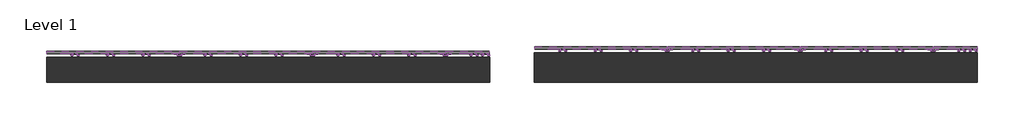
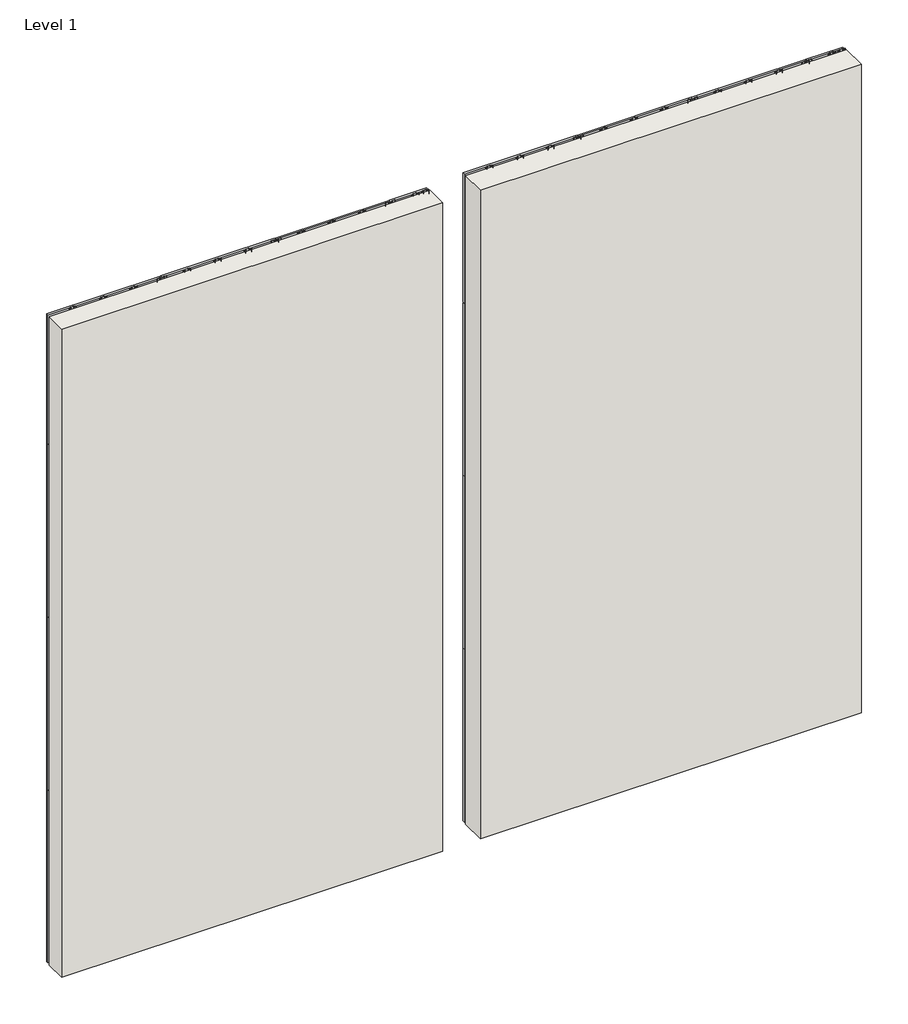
# One storey, incomplete: 32 plates, 24 members, 2 walls.
"""IFC4 building model written with IfcOpenShell, lengths in millimetres."""

from ifc_helpers import new_model, si_unit, origin, origin_with_axes, place, context, project, spatial, polyline, outline, extrude, transform, mapped, element, save
from components import rectangular_mullion_kws_revealrail_mullion_635518cf, rectangular_mullion_kws_revealrail_mullion_a2485246, plate_84a66804, plate_de720d52, plate_85d27ee4, plate_facd7c0a

model = new_model("IFC4")

# Units and contexts
model_context = context("Model", 3, world=origin())
ifc_project = project(units=[si_unit("LENGTHUNIT", "METRE", prefix="MILLI")], contexts=[model_context])

# Site, building, storey
site = spatial("IfcSite", under=ifc_project)
building = spatial("IfcBuilding", under=site)
storey = spatial("IfcBuildingStorey", under=building, Name="Level 1", Elevation=0.0)

# Members
placement = place(None, origin())
rectangular_mullion_kws_revealrail_mullion_shape = rectangular_mullion_kws_revealrail_mullion_635518cf(model_context)
element("IfcMember", 1, ObjectType="Rectangular Mullion : KWS_RevealRail_Mullion", at=placement, inside=storey, context=model_context, shape_type="MappedRepresentation", body=[
    mapped(rectangular_mullion_kws_revealrail_mullion_shape, transform((2855.9764743, 7354.7086092, 0.0), x_axis=(1.0, 0.0, 0.0), y_axis=(0.0, -1.0, 0.0), z_axis=(0.0, 0.0, -1.0))),
])
element("IfcMember", 2, ObjectType="Rectangular Mullion : KWS_RevealRail_Mullion", at=placement, inside=storey, context=model_context, shape_type="MappedRepresentation", body=[
    mapped(rectangular_mullion_kws_revealrail_mullion_shape, transform((4379.9764743, 7354.7086092, 0.0), x_axis=(1.0, 0.0, 0.0), y_axis=(0.0, -1.0, 0.0), z_axis=(0.0, 0.0, -1.0))),
])
element("IfcMember", 3, ObjectType="Rectangular Mullion : KWS_RevealRail_Mullion", at=placement, inside=storey, context=model_context, shape_type="MappedRepresentation", body=[
    mapped(rectangular_mullion_kws_revealrail_mullion_shape, transform((5903.9764743, 7354.7086092, 0.0), x_axis=(1.0, 0.0, 0.0), y_axis=(0.0, -1.0, 0.0), z_axis=(0.0, 0.0, -1.0))),
])
element("IfcMember", 4, ObjectType="Rectangular Mullion : KWS_RevealRail_Mullion", at=placement, inside=storey, context=model_context, shape_type="MappedRepresentation", body=[
    mapped(rectangular_mullion_kws_revealrail_mullion_shape, transform((8443.9764743, 7405.5086092, 0.0), x_axis=(1.0, 0.0, 0.0), y_axis=(0.0, -1.0, 0.0), z_axis=(0.0, 0.0, -1.0))),
])
element("IfcMember", 5, ObjectType="Rectangular Mullion : KWS_RevealRail_Mullion", at=placement, inside=storey, context=model_context, shape_type="MappedRepresentation", body=[
    mapped(rectangular_mullion_kws_revealrail_mullion_shape, transform((9967.9764743, 7405.5086092, 0.0), x_axis=(1.0, 0.0, 0.0), y_axis=(0.0, -1.0, 0.0), z_axis=(0.0, 0.0, -1.0))),
])
element("IfcMember", 6, ObjectType="Rectangular Mullion : KWS_RevealRail_Mullion", at=placement, inside=storey, context=model_context, shape_type="MappedRepresentation", body=[
    mapped(rectangular_mullion_kws_revealrail_mullion_shape, transform((11491.9764743, 7405.5086092, 0.0), x_axis=(1.0, 0.0, 0.0), y_axis=(0.0, -1.0, 0.0), z_axis=(0.0, 0.0, -1.0))),
])
element("IfcMember", 7, ObjectType="Rectangular Mullion : KWS_RevealRail_Mullion", at=placement, inside=storey, context=model_context, shape_type="MappedRepresentation", body=[
    mapped(rectangular_mullion_kws_revealrail_mullion_shape, transform((2855.9764743, 7354.7086092, 2438.4), x_axis=(1.0, 0.0, 0.0), y_axis=(0.0, -1.0, 0.0), z_axis=(0.0, 0.0, -1.0))),
])
element("IfcMember", 8, ObjectType="Rectangular Mullion : KWS_RevealRail_Mullion", at=placement, inside=storey, context=model_context, shape_type="MappedRepresentation", body=[
    mapped(rectangular_mullion_kws_revealrail_mullion_shape, transform((4379.9764743, 7354.7086092, 2438.4), x_axis=(1.0, 0.0, 0.0), y_axis=(0.0, -1.0, 0.0), z_axis=(0.0, 0.0, -1.0))),
])
element("IfcMember", 9, ObjectType="Rectangular Mullion : KWS_RevealRail_Mullion", at=placement, inside=storey, context=model_context, shape_type="MappedRepresentation", body=[
    mapped(rectangular_mullion_kws_revealrail_mullion_shape, transform((5903.9764743, 7354.7086092, 2438.4), x_axis=(1.0, 0.0, 0.0), y_axis=(0.0, -1.0, 0.0), z_axis=(0.0, 0.0, -1.0))),
])
element("IfcMember", 10, ObjectType="Rectangular Mullion : KWS_RevealRail_Mullion", at=placement, inside=storey, context=model_context, shape_type="MappedRepresentation", body=[
    mapped(rectangular_mullion_kws_revealrail_mullion_shape, transform((2855.9764743, 7354.7086092, 4876.8), x_axis=(1.0, 0.0, 0.0), y_axis=(0.0, -1.0, 0.0), z_axis=(0.0, 0.0, -1.0))),
])
element("IfcMember", 11, ObjectType="Rectangular Mullion : KWS_RevealRail_Mullion", at=placement, inside=storey, context=model_context, shape_type="MappedRepresentation", body=[
    mapped(rectangular_mullion_kws_revealrail_mullion_shape, transform((4379.9764743, 7354.7086092, 4876.8), x_axis=(1.0, 0.0, 0.0), y_axis=(0.0, -1.0, 0.0), z_axis=(0.0, 0.0, -1.0))),
])
element("IfcMember", 12, ObjectType="Rectangular Mullion : KWS_RevealRail_Mullion", at=placement, inside=storey, context=model_context, shape_type="MappedRepresentation", body=[
    mapped(rectangular_mullion_kws_revealrail_mullion_shape, transform((5903.9764743, 7354.7086092, 4876.8), x_axis=(1.0, 0.0, 0.0), y_axis=(0.0, -1.0, 0.0), z_axis=(0.0, 0.0, -1.0))),
])
element("IfcMember", 13, ObjectType="Rectangular Mullion : KWS_RevealRail_Mullion", at=placement, inside=storey, context=model_context, shape_type="MappedRepresentation", body=[
    mapped(rectangular_mullion_kws_revealrail_mullion_shape, transform((8443.9764743, 7405.5086092, 2438.4), x_axis=(1.0, 0.0, 0.0), y_axis=(0.0, -1.0, 0.0), z_axis=(0.0, 0.0, -1.0))),
])
element("IfcMember", 14, ObjectType="Rectangular Mullion : KWS_RevealRail_Mullion", at=placement, inside=storey, context=model_context, shape_type="MappedRepresentation", body=[
    mapped(rectangular_mullion_kws_revealrail_mullion_shape, transform((9967.9764743, 7405.5086092, 2438.4), x_axis=(1.0, 0.0, 0.0), y_axis=(0.0, -1.0, 0.0), z_axis=(0.0, 0.0, -1.0))),
])
element("IfcMember", 15, ObjectType="Rectangular Mullion : KWS_RevealRail_Mullion", at=placement, inside=storey, context=model_context, shape_type="MappedRepresentation", body=[
    mapped(rectangular_mullion_kws_revealrail_mullion_shape, transform((11491.9764743, 7405.5086092, 2438.4), x_axis=(1.0, 0.0, 0.0), y_axis=(0.0, -1.0, 0.0), z_axis=(0.0, 0.0, -1.0))),
])
element("IfcMember", 16, ObjectType="Rectangular Mullion : KWS_RevealRail_Mullion", at=placement, inside=storey, context=model_context, shape_type="MappedRepresentation", body=[
    mapped(rectangular_mullion_kws_revealrail_mullion_shape, transform((8443.9764743, 7405.5086092, 4876.8), x_axis=(1.0, 0.0, 0.0), y_axis=(0.0, -1.0, 0.0), z_axis=(0.0, 0.0, -1.0))),
])
element("IfcMember", 17, ObjectType="Rectangular Mullion : KWS_RevealRail_Mullion", at=placement, inside=storey, context=model_context, shape_type="MappedRepresentation", body=[
    mapped(rectangular_mullion_kws_revealrail_mullion_shape, transform((9967.9764743, 7405.5086092, 4876.8), x_axis=(1.0, 0.0, 0.0), y_axis=(0.0, -1.0, 0.0), z_axis=(0.0, 0.0, -1.0))),
])
element("IfcMember", 18, ObjectType="Rectangular Mullion : KWS_RevealRail_Mullion", at=placement, inside=storey, context=model_context, shape_type="MappedRepresentation", body=[
    mapped(rectangular_mullion_kws_revealrail_mullion_shape, transform((11491.9764743, 7405.5086092, 4876.8), x_axis=(1.0, 0.0, 0.0), y_axis=(0.0, -1.0, 0.0), z_axis=(0.0, 0.0, -1.0))),
])
rectangular_mullion_kws_revealrail_mullion_2_shape = rectangular_mullion_kws_revealrail_mullion_a2485246(model_context)
element("IfcMember", 19, ObjectType="Rectangular Mullion : KWS_RevealRail_Mullion", at=placement, inside=storey, context=model_context, shape_type="MappedRepresentation", body=[
    mapped(rectangular_mullion_kws_revealrail_mullion_2_shape, transform((2855.9764743, 7354.7086092, 7315.2), x_axis=(1.0, 0.0, 0.0), y_axis=(0.0, -1.0, 0.0), z_axis=(0.0, 0.0, -1.0))),
])
element("IfcMember", 20, ObjectType="Rectangular Mullion : KWS_RevealRail_Mullion", at=placement, inside=storey, context=model_context, shape_type="MappedRepresentation", body=[
    mapped(rectangular_mullion_kws_revealrail_mullion_2_shape, transform((4379.9764743, 7354.7086092, 7315.2), x_axis=(1.0, 0.0, 0.0), y_axis=(0.0, -1.0, 0.0), z_axis=(0.0, 0.0, -1.0))),
])
element("IfcMember", 21, ObjectType="Rectangular Mullion : KWS_RevealRail_Mullion", at=placement, inside=storey, context=model_context, shape_type="MappedRepresentation", body=[
    mapped(rectangular_mullion_kws_revealrail_mullion_2_shape, transform((5903.9764743, 7354.7086092, 7315.2), x_axis=(1.0, 0.0, 0.0), y_axis=(0.0, -1.0, 0.0), z_axis=(0.0, 0.0, -1.0))),
])
element("IfcMember", 22, ObjectType="Rectangular Mullion : KWS_RevealRail_Mullion", at=placement, inside=storey, context=model_context, shape_type="MappedRepresentation", body=[
    mapped(rectangular_mullion_kws_revealrail_mullion_2_shape, transform((8443.9764743, 7405.5086092, 7315.2), x_axis=(1.0, 0.0, 0.0), y_axis=(0.0, -1.0, 0.0), z_axis=(0.0, 0.0, -1.0))),
])
element("IfcMember", 23, ObjectType="Rectangular Mullion : KWS_RevealRail_Mullion", at=placement, inside=storey, context=model_context, shape_type="MappedRepresentation", body=[
    mapped(rectangular_mullion_kws_revealrail_mullion_2_shape, transform((9967.9764743, 7405.5086092, 7315.2), x_axis=(1.0, 0.0, 0.0), y_axis=(0.0, -1.0, 0.0), z_axis=(0.0, 0.0, -1.0))),
])
element("IfcMember", 24, ObjectType="Rectangular Mullion : KWS_RevealRail_Mullion", at=placement, inside=storey, context=model_context, shape_type="MappedRepresentation", body=[
    mapped(rectangular_mullion_kws_revealrail_mullion_2_shape, transform((11491.9764743, 7405.5086092, 7315.2), x_axis=(1.0, 0.0, 0.0), y_axis=(0.0, -1.0, 0.0), z_axis=(0.0, 0.0, -1.0))),
])

# Plates
plate_shape = plate_84a66804(model_context)
element("IfcPlate", 25, ObjectType="KWS_Generic-Panel_w_PanelRail-V : 2\" x 3/4\"", at=placement, inside=storey, context=model_context, shape_type="MappedRepresentation", body=[
    mapped(plate_shape, transform((2093.9764741, 7354.7086092, 0.0), x_axis=(1.0, 0.0, 0.0), y_axis=(0.0, 1.0, 0.0), z_axis=(0.0, 0.0, 1.0))),
])
element("IfcPlate", 26, ObjectType="KWS_Generic-Panel_w_PanelRail-V : 2\" x 3/4\"", at=placement, inside=storey, context=model_context, shape_type="MappedRepresentation", body=[
    mapped(plate_shape, transform((3617.9764743, 7354.7086092, 0.0), x_axis=(1.0, 0.0, 0.0), y_axis=(0.0, 1.0, 0.0), z_axis=(0.0, 0.0, 1.0))),
])
element("IfcPlate", 27, ObjectType="KWS_Generic-Panel_w_PanelRail-V : 2\" x 3/4\"", at=placement, inside=storey, context=model_context, shape_type="MappedRepresentation", body=[
    mapped(plate_shape, transform((5141.9764743, 7354.7086092, 0.0), x_axis=(1.0, 0.0, 0.0), y_axis=(0.0, 1.0, 0.0), z_axis=(0.0, 0.0, 1.0))),
])
element("IfcPlate", 28, ObjectType="KWS_Generic-Panel_w_PanelRail-V : 2\" x 3/4\"", at=placement, inside=storey, context=model_context, shape_type="MappedRepresentation", body=[
    mapped(plate_shape, transform((2093.9764741, 7354.7086092, 2438.4), x_axis=(1.0, 0.0, 0.0), y_axis=(0.0, 1.0, 0.0), z_axis=(0.0, 0.0, 1.0))),
])
element("IfcPlate", 29, ObjectType="KWS_Generic-Panel_w_PanelRail-V : 2\" x 3/4\"", at=placement, inside=storey, context=model_context, shape_type="MappedRepresentation", body=[
    mapped(plate_shape, transform((3617.9764743, 7354.7086092, 2438.4), x_axis=(1.0, 0.0, 0.0), y_axis=(0.0, 1.0, 0.0), z_axis=(0.0, 0.0, 1.0))),
])
element("IfcPlate", 30, ObjectType="KWS_Generic-Panel_w_PanelRail-V : 2\" x 3/4\"", at=placement, inside=storey, context=model_context, shape_type="MappedRepresentation", body=[
    mapped(plate_shape, transform((5141.9764743, 7354.7086092, 2438.4), x_axis=(1.0, 0.0, 0.0), y_axis=(0.0, 1.0, 0.0), z_axis=(0.0, 0.0, 1.0))),
])
element("IfcPlate", 31, ObjectType="KWS_Generic-Panel_w_PanelRail-V : 2\" x 3/4\"", at=placement, inside=storey, context=model_context, shape_type="MappedRepresentation", body=[
    mapped(plate_shape, transform((2093.9764741, 7354.7086092, 4876.8), x_axis=(1.0, 0.0, 0.0), y_axis=(0.0, 1.0, 0.0), z_axis=(0.0, 0.0, 1.0))),
])
element("IfcPlate", 32, ObjectType="KWS_Generic-Panel_w_PanelRail-V : 2\" x 3/4\"", at=placement, inside=storey, context=model_context, shape_type="MappedRepresentation", body=[
    mapped(plate_shape, transform((3617.9764743, 7354.7086092, 4876.8), x_axis=(1.0, 0.0, 0.0), y_axis=(0.0, 1.0, 0.0), z_axis=(0.0, 0.0, 1.0))),
])
element("IfcPlate", 33, ObjectType="KWS_Generic-Panel_w_PanelRail-V : 2\" x 3/4\"", at=placement, inside=storey, context=model_context, shape_type="MappedRepresentation", body=[
    mapped(plate_shape, transform((5141.9764743, 7354.7086092, 4876.8), x_axis=(1.0, 0.0, 0.0), y_axis=(0.0, 1.0, 0.0), z_axis=(0.0, 0.0, 1.0))),
])
element("IfcPlate", 34, ObjectType="KWS_Generic-Panel_w_PanelRail-V : 2\" x 3/4\"", at=placement, inside=storey, context=model_context, shape_type="MappedRepresentation", body=[
    mapped(plate_shape, transform((7681.9764741, 7405.5086092, 0.0), x_axis=(1.0, 0.0, 0.0), y_axis=(0.0, 1.0, 0.0), z_axis=(0.0, 0.0, 1.0))),
])
element("IfcPlate", 35, ObjectType="KWS_Generic-Panel_w_PanelRail-V : 2\" x 3/4\"", at=placement, inside=storey, context=model_context, shape_type="MappedRepresentation", body=[
    mapped(plate_shape, transform((9205.9764743, 7405.5086092, 0.0), x_axis=(1.0, 0.0, 0.0), y_axis=(0.0, 1.0, 0.0), z_axis=(0.0, 0.0, 1.0))),
])
element("IfcPlate", 36, ObjectType="KWS_Generic-Panel_w_PanelRail-V : 2\" x 3/4\"", at=placement, inside=storey, context=model_context, shape_type="MappedRepresentation", body=[
    mapped(plate_shape, transform((10729.9764743, 7405.5086092, 0.0), x_axis=(1.0, 0.0, 0.0), y_axis=(0.0, 1.0, 0.0), z_axis=(0.0, 0.0, 1.0))),
])
element("IfcPlate", 37, ObjectType="KWS_Generic-Panel_w_PanelRail-V : 2\" x 3/4\"", at=placement, inside=storey, context=model_context, shape_type="MappedRepresentation", body=[
    mapped(plate_shape, transform((7681.9764741, 7405.5086092, 2438.4), x_axis=(1.0, 0.0, 0.0), y_axis=(0.0, 1.0, 0.0), z_axis=(0.0, 0.0, 1.0))),
])
element("IfcPlate", 38, ObjectType="KWS_Generic-Panel_w_PanelRail-V : 2\" x 3/4\"", at=placement, inside=storey, context=model_context, shape_type="MappedRepresentation", body=[
    mapped(plate_shape, transform((9205.9764743, 7405.5086092, 2438.4), x_axis=(1.0, 0.0, 0.0), y_axis=(0.0, 1.0, 0.0), z_axis=(0.0, 0.0, 1.0))),
])
element("IfcPlate", 39, ObjectType="KWS_Generic-Panel_w_PanelRail-V : 2\" x 3/4\"", at=placement, inside=storey, context=model_context, shape_type="MappedRepresentation", body=[
    mapped(plate_shape, transform((10729.9764743, 7405.5086092, 2438.4), x_axis=(1.0, 0.0, 0.0), y_axis=(0.0, 1.0, 0.0), z_axis=(0.0, 0.0, 1.0))),
])
element("IfcPlate", 40, ObjectType="KWS_Generic-Panel_w_PanelRail-V : 2\" x 3/4\"", at=placement, inside=storey, context=model_context, shape_type="MappedRepresentation", body=[
    mapped(plate_shape, transform((7681.9764741, 7405.5086092, 4876.8), x_axis=(1.0, 0.0, 0.0), y_axis=(0.0, 1.0, 0.0), z_axis=(0.0, 0.0, 1.0))),
])
element("IfcPlate", 41, ObjectType="KWS_Generic-Panel_w_PanelRail-V : 2\" x 3/4\"", at=placement, inside=storey, context=model_context, shape_type="MappedRepresentation", body=[
    mapped(plate_shape, transform((9205.9764743, 7405.5086092, 4876.8), x_axis=(1.0, 0.0, 0.0), y_axis=(0.0, 1.0, 0.0), z_axis=(0.0, 0.0, 1.0))),
])
element("IfcPlate", 42, ObjectType="KWS_Generic-Panel_w_PanelRail-V : 2\" x 3/4\"", at=placement, inside=storey, context=model_context, shape_type="MappedRepresentation", body=[
    mapped(plate_shape, transform((10729.9764743, 7405.5086092, 4876.8), x_axis=(1.0, 0.0, 0.0), y_axis=(0.0, 1.0, 0.0), z_axis=(0.0, 0.0, 1.0))),
])
plate_2_shape = plate_de720d52(model_context)
element("IfcPlate", 43, ObjectType="KWS_Generic-Panel_w_PanelRail-V : 2\" x 3/4\"", at=placement, inside=storey, context=model_context, shape_type="MappedRepresentation", body=[
    mapped(plate_2_shape, transform((6157.9764741, 7354.7086092, 0.0), x_axis=(1.0, 0.0, 0.0), y_axis=(0.0, 1.0, 0.0), z_axis=(0.0, 0.0, 1.0))),
])
element("IfcPlate", 44, ObjectType="KWS_Generic-Panel_w_PanelRail-V : 2\" x 3/4\"", at=placement, inside=storey, context=model_context, shape_type="MappedRepresentation", body=[
    mapped(plate_2_shape, transform((6157.9764741, 7354.7086092, 2438.4), x_axis=(1.0, 0.0, 0.0), y_axis=(0.0, 1.0, 0.0), z_axis=(0.0, 0.0, 1.0))),
])
element("IfcPlate", 45, ObjectType="KWS_Generic-Panel_w_PanelRail-V : 2\" x 3/4\"", at=placement, inside=storey, context=model_context, shape_type="MappedRepresentation", body=[
    mapped(plate_2_shape, transform((6157.9764741, 7354.7086092, 4876.8), x_axis=(1.0, 0.0, 0.0), y_axis=(0.0, 1.0, 0.0), z_axis=(0.0, 0.0, 1.0))),
])
element("IfcPlate", 46, ObjectType="KWS_Generic-Panel_w_PanelRail-V : 2\" x 3/4\"", at=placement, inside=storey, context=model_context, shape_type="MappedRepresentation", body=[
    mapped(plate_2_shape, transform((11745.9764741, 7405.5086092, 0.0), x_axis=(1.0, 0.0, 0.0), y_axis=(0.0, 1.0, 0.0), z_axis=(0.0, 0.0, 1.0))),
])
element("IfcPlate", 47, ObjectType="KWS_Generic-Panel_w_PanelRail-V : 2\" x 3/4\"", at=placement, inside=storey, context=model_context, shape_type="MappedRepresentation", body=[
    mapped(plate_2_shape, transform((11745.9764741, 7405.5086092, 2438.4), x_axis=(1.0, 0.0, 0.0), y_axis=(0.0, 1.0, 0.0), z_axis=(0.0, 0.0, 1.0))),
])
element("IfcPlate", 48, ObjectType="KWS_Generic-Panel_w_PanelRail-V : 2\" x 3/4\"", at=placement, inside=storey, context=model_context, shape_type="MappedRepresentation", body=[
    mapped(plate_2_shape, transform((11745.9764741, 7405.5086092, 4876.8), x_axis=(1.0, 0.0, 0.0), y_axis=(0.0, 1.0, 0.0), z_axis=(0.0, 0.0, 1.0))),
])
plate_3_shape = plate_85d27ee4(model_context)
element("IfcPlate", 49, ObjectType="KWS_Generic-Panel_w_PanelRail-V : 2\" x 3/4\"", at=placement, inside=storey, context=model_context, shape_type="MappedRepresentation", body=[
    mapped(plate_3_shape, transform((2093.9764741, 7354.7086092, 7315.2), x_axis=(1.0, 0.0, 0.0), y_axis=(0.0, 1.0, 0.0), z_axis=(0.0, 0.0, 1.0))),
])
element("IfcPlate", 50, ObjectType="KWS_Generic-Panel_w_PanelRail-V : 2\" x 3/4\"", at=placement, inside=storey, context=model_context, shape_type="MappedRepresentation", body=[
    mapped(plate_3_shape, transform((3617.9764743, 7354.7086092, 7315.2), x_axis=(1.0, 0.0, 0.0), y_axis=(0.0, 1.0, 0.0), z_axis=(0.0, 0.0, 1.0))),
])
element("IfcPlate", 51, ObjectType="KWS_Generic-Panel_w_PanelRail-V : 2\" x 3/4\"", at=placement, inside=storey, context=model_context, shape_type="MappedRepresentation", body=[
    mapped(plate_3_shape, transform((5141.9764743, 7354.7086092, 7315.2), x_axis=(1.0, 0.0, 0.0), y_axis=(0.0, 1.0, 0.0), z_axis=(0.0, 0.0, 1.0))),
])
element("IfcPlate", 52, ObjectType="KWS_Generic-Panel_w_PanelRail-V : 2\" x 3/4\"", at=placement, inside=storey, context=model_context, shape_type="MappedRepresentation", body=[
    mapped(plate_3_shape, transform((7681.9764741, 7405.5086092, 7315.2), x_axis=(1.0, 0.0, 0.0), y_axis=(0.0, 1.0, 0.0), z_axis=(0.0, 0.0, 1.0))),
])
element("IfcPlate", 53, ObjectType="KWS_Generic-Panel_w_PanelRail-V : 2\" x 3/4\"", at=placement, inside=storey, context=model_context, shape_type="MappedRepresentation", body=[
    mapped(plate_3_shape, transform((9205.9764743, 7405.5086092, 7315.2), x_axis=(1.0, 0.0, 0.0), y_axis=(0.0, 1.0, 0.0), z_axis=(0.0, 0.0, 1.0))),
])
element("IfcPlate", 54, ObjectType="KWS_Generic-Panel_w_PanelRail-V : 2\" x 3/4\"", at=placement, inside=storey, context=model_context, shape_type="MappedRepresentation", body=[
    mapped(plate_3_shape, transform((10729.9764743, 7405.5086092, 7315.2), x_axis=(1.0, 0.0, 0.0), y_axis=(0.0, 1.0, 0.0), z_axis=(0.0, 0.0, 1.0))),
])
plate_4_shape = plate_facd7c0a(model_context)
element("IfcPlate", 55, ObjectType="KWS_Generic-Panel_w_PanelRail-V : 2\" x 3/4\"", at=placement, inside=storey, context=model_context, shape_type="MappedRepresentation", body=[
    mapped(plate_4_shape, transform((6157.9764741, 7354.7086092, 7315.2), x_axis=(1.0, 0.0, 0.0), y_axis=(0.0, 1.0, 0.0), z_axis=(0.0, 0.0, 1.0))),
])
element("IfcPlate", 56, ObjectType="KWS_Generic-Panel_w_PanelRail-V : 2\" x 3/4\"", at=placement, inside=storey, context=model_context, shape_type="MappedRepresentation", body=[
    mapped(plate_4_shape, transform((11745.9764741, 7405.5086092, 7315.2), x_axis=(1.0, 0.0, 0.0), y_axis=(0.0, 1.0, 0.0), z_axis=(0.0, 0.0, 1.0))),
])

# Walls
element("IfcWall", 57, ObjectType="Exterior - Backup Wall System - Concrete Block", at=placement, inside=storey, context=model_context, shape_type="SweptSolid", body=[
    extrude(outline(polyline([(6411.976474, 7046.7336092), (1331.976474, 7046.7336092), (1331.976474, 7335.6586092), (6411.976474, 7335.6586092), (6411.976474, 7046.7336092)])), origin_with_axes(), (0.0, 0.0, 1.0), 9144.0),
])
element("IfcWall", 58, ObjectType="Exterior - Backup Wall System - Concrete Block 2", at=placement, inside=storey, context=model_context, shape_type="SweptSolid", body=[
    extrude(outline(polyline([(11999.976474, 7046.7336092), (6919.976474, 7046.7336092), (6919.976474, 7386.4586092), (11999.976474, 7386.4586092), (11999.976474, 7046.7336092)])), origin_with_axes(), (0.0, 0.0, 1.0), 9144.0),
])

save(model, "model.ifc")
